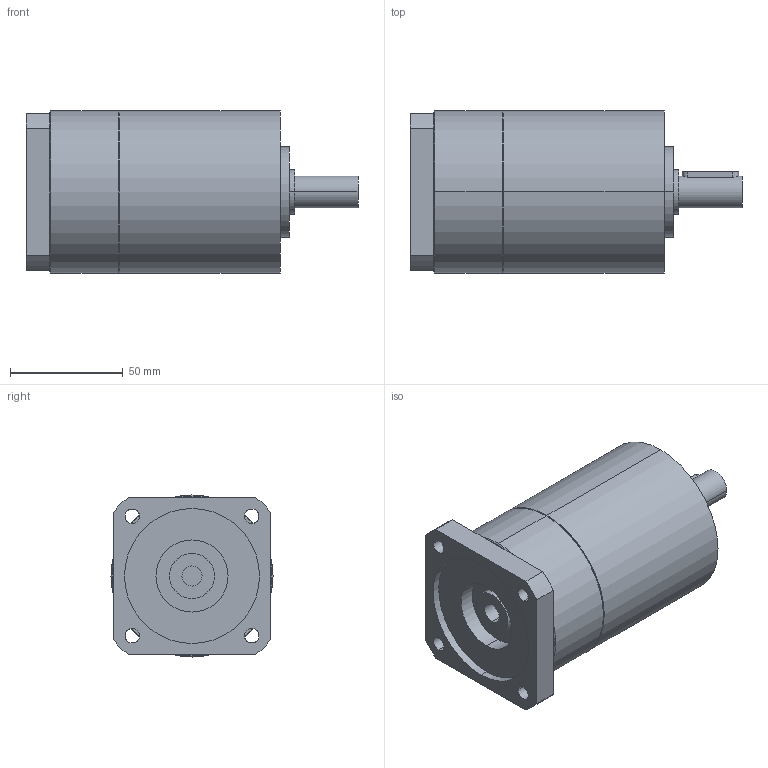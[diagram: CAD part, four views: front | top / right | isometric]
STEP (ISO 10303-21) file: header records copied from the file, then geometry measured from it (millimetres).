
FILE_DESCRIPTION(('CoCreate Modeling STEP Export'),'2;1');
FILE_NAME('GPT75_ig-9-12-16-20-25-28-35-40-50-70-100_14_B14T_9_P04.stp','2014-08-27T13:27:05',(''),(''),'CoCreate Modeling STEP processor for AP214 (Solid Model)','CoCreate Modeling 16.00C 25-Feb-2009 (C) Parametric Technology GmbH','');
FILE_SCHEMA(('AUTOMOTIVE_DESIGN { 1 0 10303 214 1 1 1 1 }'));
Length unit declared in the file: millimetre
Products named in the file (2): GPT75_ig-9-12-16-20-25-28-35-40-50-70-100_14_B14T_9_P04
Assembly tree (1 placements, depth 2):
  GPT75_ig-9-12-16-20-25-28-35-40-50-70-100_14_B14T_9_P04
    GPT75_ig-9-12-16-20-25-28-35-40-50-70-100_14_B14T_9_P04
Bounding box: 147.5 x 72 x 72 mm (x, y, z)
Volume: 459344.9 mm3; surface area: 41894.4 mm2
Topology: 1 solids, 1 shells, 80 faces, 192 edges, 123 vertices
Faces by surface type: cylinder 42, plane 34, cone 4
Entity records: 2323 total; most frequent: CARTESIAN_POINT 683, ORIENTED_EDGE 384, DIRECTION 276, EDGE_CURVE 192, VERTEX_POINT 123, AXIS2_PLACEMENT_3D 104, EDGE_LOOP 97, FACE_OUTER_BOUND 80
